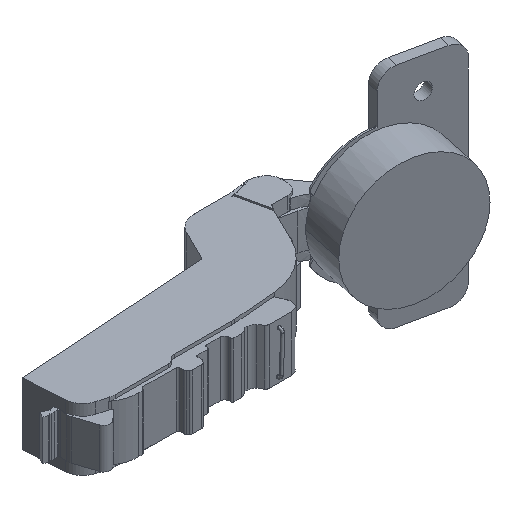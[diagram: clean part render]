
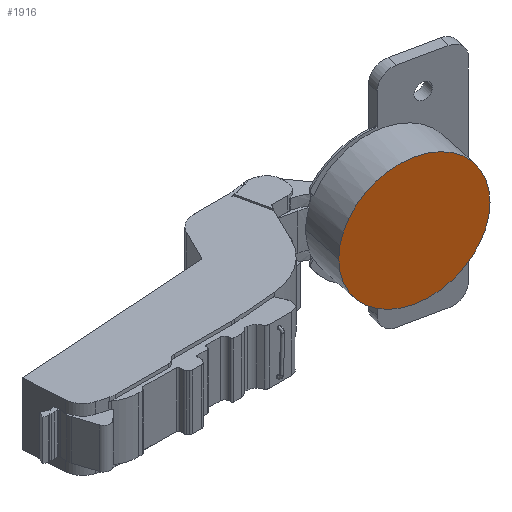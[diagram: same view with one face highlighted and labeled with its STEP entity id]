
A CAD part, isometric view. The second image highlights one B-rep face of the part: STEP entity #1916.
In plain terms, the highlighted planar face has unit normal (-0.208, -0.978, 0).
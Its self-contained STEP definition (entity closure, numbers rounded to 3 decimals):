
#924 = FACE_OUTER_BOUND ( 'NONE', #7736, .T. ) ;
#1916 = ADVANCED_FACE ( 'NONE', ( #924 ), #3790, .T. ) ;
#2139 = DIRECTION ( 'NONE',  ( -0.208, -0.978, 0. ) ) ;
#2507 = DIRECTION ( 'NONE',  ( -0.208, -0.978, 0. ) ) ;
#2696 = CIRCLE ( 'NONE', #4904, 17.4 ) ;
#3038 = DIRECTION ( 'NONE',  ( 0.978, -0.208, 0. ) ) ;
#3283 = AXIS2_PLACEMENT_3D ( 'NONE', #6475, #2507, #7154 ) ;
#3424 = AXIS2_PLACEMENT_3D ( 'NONE', #4238, #4273, #3038 ) ;
#3790 = PLANE ( 'NONE',  #3424 ) ;
#4238 = CARTESIAN_POINT ( 'NONE',  ( 23.885, 14.088, 0. ) ) ;
#4273 = DIRECTION ( 'NONE',  ( -0.208, -0.978, 0. ) ) ;
#4287 = VERTEX_POINT ( 'NONE', #4383 ) ;
#4383 = CARTESIAN_POINT ( 'NONE',  ( 6.865, 17.705, 0. ) ) ;
#4778 = CARTESIAN_POINT ( 'NONE',  ( 40.905, 10.47, 0. ) ) ;
#4904 = AXIS2_PLACEMENT_3D ( 'NONE', #6087, #2139, #6774 ) ;
#5085 = VERTEX_POINT ( 'NONE', #4778 ) ;
#6087 = CARTESIAN_POINT ( 'NONE',  ( 23.885, 14.088, 0. ) ) ;
#6475 = CARTESIAN_POINT ( 'NONE',  ( 23.885, 14.088, 0. ) ) ;
#6774 = DIRECTION ( 'NONE',  ( 0.978, -0.208, 0. ) ) ;
#6844 = EDGE_CURVE ( 'NONE', #5085, #4287, #2696, .T. ) ;
#6917 = CIRCLE ( 'NONE', #3283, 17.4 ) ;
#7154 = DIRECTION ( 'NONE',  ( 0.978, -0.208, 0. ) ) ;
#7451 = ORIENTED_EDGE ( 'NONE', *, *, #6844, .T. ) ;
#7532 = EDGE_CURVE ( 'NONE', #4287, #5085, #6917, .T. ) ;
#7582 = ORIENTED_EDGE ( 'NONE', *, *, #7532, .T. ) ;
#7736 = EDGE_LOOP ( 'NONE', ( #7451, #7582 ) ) ;
